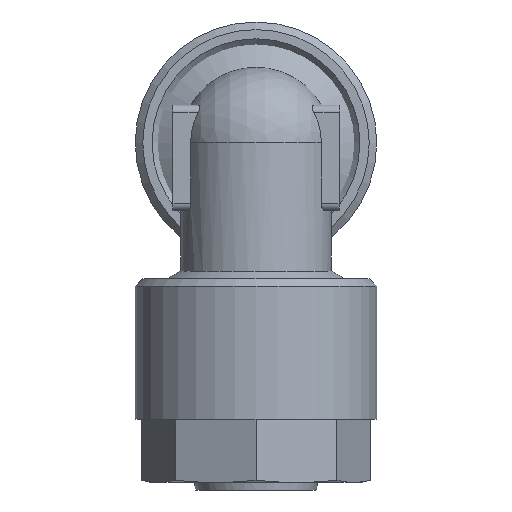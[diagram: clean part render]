
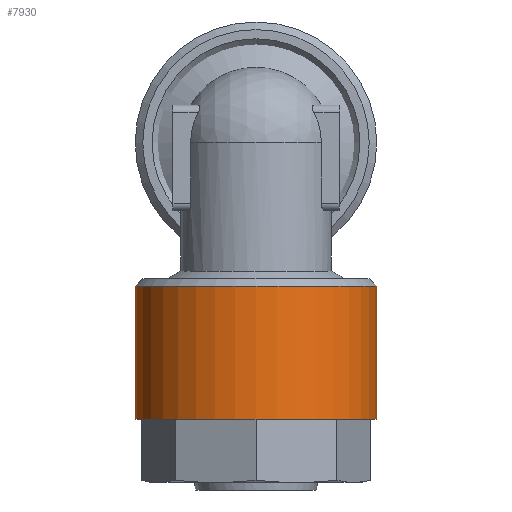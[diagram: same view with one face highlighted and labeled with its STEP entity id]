
A CAD part, left-side view. The second image highlights one B-rep face of the part: STEP entity #7930.
In plain terms, the highlighted cylindrical face has radius 8 mm (diameter 16 mm), a full revolution.
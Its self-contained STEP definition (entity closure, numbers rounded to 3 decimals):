
#2800=ORIENTED_EDGE('',*,*,#3301,.F.);
#2801=ORIENTED_EDGE('',*,*,#3302,.T.);
#2966=CIRCLE('',#7757,8.);
#2967=CIRCLE('',#7759,8.);
#3103=VERTEX_POINT('',#7477);
#3104=VERTEX_POINT('',#7480);
#3301=EDGE_CURVE('',#3103,#3103,#2966,.T.);
#3302=EDGE_CURVE('',#3104,#3104,#2967,.T.);
#3454=EDGE_LOOP('',(#2800));
#3455=EDGE_LOOP('',(#2801));
#3601=FACE_BOUND('',#3454,.T.);
#3602=FACE_BOUND('',#3455,.T.);
#4009=DIRECTION('',(0.,1.,0.));
#4010=DIRECTION('',(0.,0.,-8.));
#4011=DIRECTION('',(0.,1.,0.));
#4012=DIRECTION('',(1.,0.,0.));
#4013=DIRECTION('',(0.,1.,0.));
#4014=DIRECTION('',(0.,0.,8.));
#7477=CARTESIAN_POINT('',(26.989,23.895,-8.));
#7478=CARTESIAN_POINT('',(26.989,23.895,0.));
#7479=CARTESIAN_POINT('',(26.989,15.095,0.));
#7480=CARTESIAN_POINT('',(26.989,15.095,8.));
#7481=CARTESIAN_POINT('',(26.989,15.095,0.));
#7757=AXIS2_PLACEMENT_3D('',#7478,#4009,#4010);
#7758=AXIS2_PLACEMENT_3D('',#7479,#4011,#4012);
#7759=AXIS2_PLACEMENT_3D('',#7481,#4013,#4014);
#7853=CYLINDRICAL_SURFACE('',#7758,8.);
#7930=ADVANCED_FACE('',(#3601,#3602),#7853,.T.);
